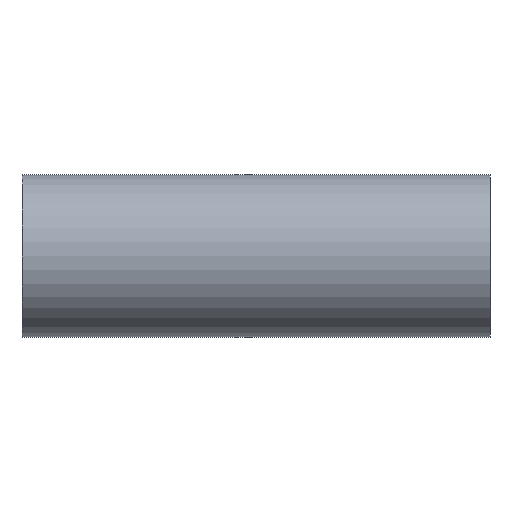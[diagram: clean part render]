
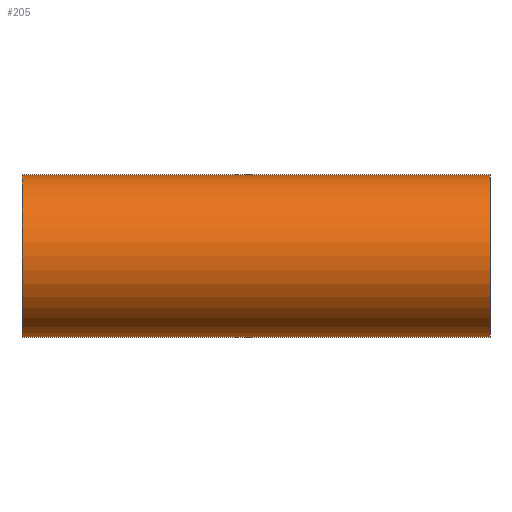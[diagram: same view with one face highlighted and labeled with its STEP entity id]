
A CAD part, front view. The second image highlights one B-rep face of the part: STEP entity #205.
In plain terms, the highlighted cylindrical face has radius 25.4 mm (diameter 50.8 mm), a partial arc.
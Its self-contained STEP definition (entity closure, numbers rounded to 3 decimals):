
#86 = ORIENTED_EDGE ( 'NONE', *, *, #1727, .T. ) ;
#94 = CIRCLE ( 'NONE', #1737, 25.4 ) ;
#99 = DIRECTION ( 'NONE',  ( 0., 0., -1. ) ) ;
#137 = CARTESIAN_POINT ( 'NONE',  ( -73., 0., 0. ) ) ;
#176 = CARTESIAN_POINT ( 'NONE',  ( -73., 0., 25.4 ) ) ;
#205 = ADVANCED_FACE ( 'NONE', ( #837 ), #1551, .T. ) ;
#234 = DIRECTION ( 'NONE',  ( 0., 0., -1. ) ) ;
#242 = EDGE_CURVE ( 'NONE', #272, #1764, #1438, .T. ) ;
#272 = VERTEX_POINT ( 'NONE', #448 ) ;
#397 = EDGE_CURVE ( 'NONE', #492, #1764, #1136, .T. ) ;
#448 = CARTESIAN_POINT ( 'NONE',  ( 73., 0., -25.4 ) ) ;
#492 = VERTEX_POINT ( 'NONE', #176 ) ;
#501 = DIRECTION ( 'NONE',  ( 1., 0., 0. ) ) ;
#625 = DIRECTION ( 'NONE',  ( 1., 0., 0. ) ) ;
#633 = CARTESIAN_POINT ( 'NONE',  ( 73., 0., 0. ) ) ;
#644 = CARTESIAN_POINT ( 'NONE',  ( -73., 0., -25.4 ) ) ;
#693 = CARTESIAN_POINT ( 'NONE',  ( -73., 0., -25.4 ) ) ;
#738 = DIRECTION ( 'NONE',  ( 1., 0., 0. ) ) ;
#784 = VERTEX_POINT ( 'NONE', #693 ) ;
#800 = EDGE_LOOP ( 'NONE', ( #1511, #86, #1534, #1067 ) ) ;
#837 = FACE_OUTER_BOUND ( 'NONE', #800, .T. ) ;
#953 = AXIS2_PLACEMENT_3D ( 'NONE', #633, #1215, #99 ) ;
#990 = VECTOR ( 'NONE', #625, 1000. ) ;
#1067 = ORIENTED_EDGE ( 'NONE', *, *, #242, .T. ) ;
#1136 = LINE ( 'NONE', #1768, #990 ) ;
#1150 = AXIS2_PLACEMENT_3D ( 'NONE', #137, #501, #234 ) ;
#1215 = DIRECTION ( 'NONE',  ( -1., 0., 0. ) ) ;
#1368 = LINE ( 'NONE', #644, #1420 ) ;
#1420 = VECTOR ( 'NONE', #738, 1000. ) ;
#1428 = EDGE_CURVE ( 'NONE', #784, #272, #1368, .T. ) ;
#1438 = CIRCLE ( 'NONE', #953, 25.4 ) ;
#1478 = CARTESIAN_POINT ( 'NONE',  ( -73., 0., 0. ) ) ;
#1501 = DIRECTION ( 'NONE',  ( 1., 0., 0. ) ) ;
#1511 = ORIENTED_EDGE ( 'NONE', *, *, #397, .F. ) ;
#1512 = DIRECTION ( 'NONE',  ( 0., 0., -1. ) ) ;
#1534 = ORIENTED_EDGE ( 'NONE', *, *, #1428, .T. ) ;
#1551 = CYLINDRICAL_SURFACE ( 'NONE', #1150, 25.4 ) ;
#1624 = CARTESIAN_POINT ( 'NONE',  ( 73., 0., 25.4 ) ) ;
#1727 = EDGE_CURVE ( 'NONE', #492, #784, #94, .T. ) ;
#1737 = AXIS2_PLACEMENT_3D ( 'NONE', #1478, #1501, #1512 ) ;
#1764 = VERTEX_POINT ( 'NONE', #1624 ) ;
#1768 = CARTESIAN_POINT ( 'NONE',  ( -73., 0., 25.4 ) ) ;
